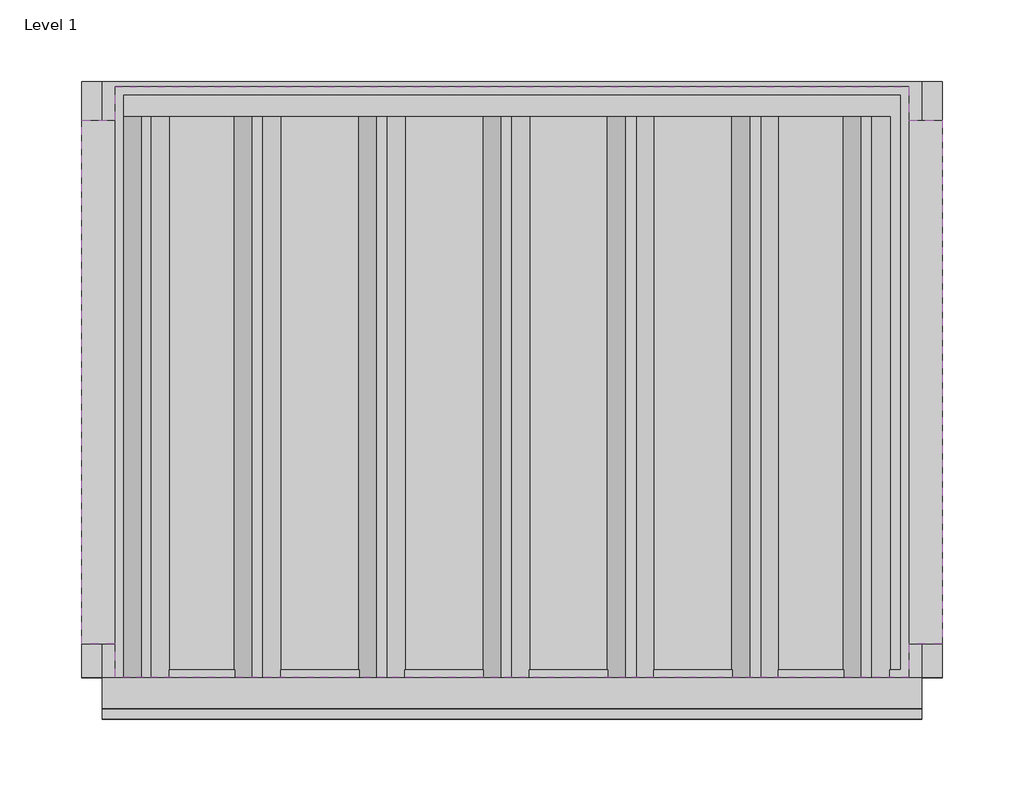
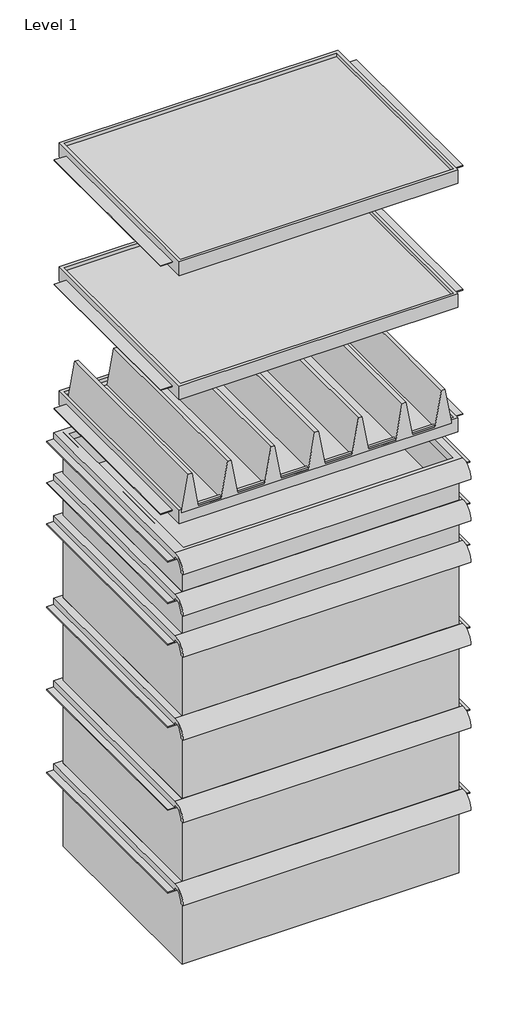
# One storey, incomplete: 10 furniture elements.
"""IFC4 building model written with IfcOpenShell, lengths in millimetres."""

from ifc_helpers import new_model, si_unit, origin, place, context, project, spatial, transform, mapped, element, save
from components import furniture_c520e785, furniture_e646b788, furniture_2bba7109, furniture_85d6e494, furniture_c6bb3dba, furniture_57344b34, furniture_a97c68ee, sr_22_solid_shelf_f207532c, sr_22_solid_shelf_ef78e3b3, sr_22_solid_shelf_ceaeb301

model = new_model("IFC4")

# Units and contexts
model_context = context("Model", 3, world=origin())
ifc_project = project(units=[si_unit("LENGTHUNIT", "METRE", prefix="MILLI")], contexts=[model_context])

# Site, building, storey
site = spatial("IfcSite", under=ifc_project)
building = spatial("IfcBuilding", under=site)
storey = spatial("IfcBuildingStorey", under=building, Name="Level 1", Elevation=0.0)

# Furniture
placement = place(None, origin())
furniture_shape = furniture_c520e785(model_context)
element("IfcFurniture", 1, ObjectType="HermanMiller_CoStruc_CO242_Subdivider Vane : 2 5/8\"Hx13 3/4\"D x 18 1/2\"W", at=placement, inside=storey, context=model_context, shape_type="MappedRepresentation", body=[
    mapped(furniture_shape, transform((372.5766628, -372.3553701, 0.0), x_axis=(1.0, 0.0, 0.0), y_axis=(0.0, 1.0, 0.0), z_axis=(0.0, 0.0, 1.0))),
])
furniture_2_shape = furniture_e646b788(model_context)
element("IfcFurniture", 2, ObjectType="HermanMiller_Carts_CT501_Drawer : 3\"H x 15\"D x 20\"W", at=placement, inside=storey, context=model_context, shape_type="MappedRepresentation", body=[
    mapped(furniture_2_shape, transform((363.1251112, -374.3238701, 0.0), x_axis=(1.0, 0.0, 0.0), y_axis=(0.0, 1.0, 0.0), z_axis=(0.0, 0.0, 1.0))),
])
furniture_3_shape = furniture_2bba7109(model_context)
element("IfcFurniture", 3, ObjectType="HermanMiller_Carts_CT501_Drawer : 3\"H x 15\"D x 20\"W", at=placement, inside=storey, context=model_context, shape_type="MappedRepresentation", body=[
    mapped(furniture_3_shape, transform((363.1251112, -374.3238701, 0.0), x_axis=(1.0, 0.0, 0.0), y_axis=(0.0, 1.0, 0.0), z_axis=(0.0, 0.0, 1.0))),
])
furniture_4_shape = furniture_85d6e494(model_context)
element("IfcFurniture", 4, ObjectType="HermanMiller_Carts_CT501_Drawer : 6\"H x 15\"D x 20\"W", at=placement, inside=storey, context=model_context, shape_type="MappedRepresentation", body=[
    mapped(furniture_4_shape, transform((363.1251112, -374.3238701, 0.0), x_axis=(1.0, 0.0, 0.0), y_axis=(0.0, 1.0, 0.0), z_axis=(0.0, 0.0, 1.0))),
])
furniture_5_shape = furniture_c6bb3dba(model_context)
element("IfcFurniture", 5, ObjectType="HermanMiller_Carts_CT501_Drawer : 6\"H x 15\"D x 20\"W", at=placement, inside=storey, context=model_context, shape_type="MappedRepresentation", body=[
    mapped(furniture_5_shape, transform((363.1251112, -374.3238701, 0.0), x_axis=(1.0, 0.0, 0.0), y_axis=(0.0, 1.0, 0.0), z_axis=(0.0, 0.0, 1.0))),
])
furniture_6_shape = furniture_57344b34(model_context)
element("IfcFurniture", 6, ObjectType="HermanMiller_Carts_CT501_Drawer : 6\"H x 15\"D x 20\"W", at=placement, inside=storey, context=model_context, shape_type="MappedRepresentation", body=[
    mapped(furniture_6_shape, transform((363.1251112, -374.3238701, 0.0), x_axis=(1.0, 0.0, 0.0), y_axis=(0.0, 1.0, 0.0), z_axis=(0.0, 0.0, 1.0))),
])
furniture_7_shape = furniture_a97c68ee(model_context)
element("IfcFurniture", 7, ObjectType="HermanMiller_Carts_CT501_Drawer : 6\"H x 15\"D x 20\"W", at=placement, inside=storey, context=model_context, shape_type="MappedRepresentation", body=[
    mapped(furniture_7_shape, transform((363.1251112, -374.3238701, 0.0), x_axis=(1.0, 0.0, 0.0), y_axis=(0.0, 1.0, 0.0), z_axis=(0.0, 0.0, 1.0))),
])
sr_22_solid_shelf_shape = sr_22_solid_shelf_f207532c(model_context)
element("IfcFurniture", 8, ObjectType="HermanMiller_Carts_CT521_CartShelf : Sr 22 Solid Shelf", at=placement, inside=storey, context=model_context, shape_type="MappedRepresentation", body=[
    mapped(sr_22_solid_shelf_shape, transform((433.1302628, -337.8113701, 0.0), x_axis=(1.0, 0.0, 0.0), y_axis=(0.0, 1.0, 0.0), z_axis=(0.0, 0.0, 1.0))),
])
sr_22_solid_shelf_2_shape = sr_22_solid_shelf_ef78e3b3(model_context)
element("IfcFurniture", 9, ObjectType="HermanMiller_Carts_CT521_CartShelf : Sr 22 Solid Shelf", at=placement, inside=storey, context=model_context, shape_type="MappedRepresentation", body=[
    mapped(sr_22_solid_shelf_2_shape, transform((433.1302628, -337.8113701, 0.0), x_axis=(1.0, 0.0, 0.0), y_axis=(0.0, 1.0, 0.0), z_axis=(0.0, 0.0, 1.0))),
])
sr_22_solid_shelf_3_shape = sr_22_solid_shelf_ceaeb301(model_context)
element("IfcFurniture", 10, ObjectType="HermanMiller_Carts_CT521_CartShelf : Sr 22 Solid Shelf", at=placement, inside=storey, context=model_context, shape_type="MappedRepresentation", body=[
    mapped(sr_22_solid_shelf_3_shape, transform((433.1302628, -337.8113701, 0.0), x_axis=(1.0, 0.0, 0.0), y_axis=(0.0, 1.0, 0.0), z_axis=(0.0, 0.0, 1.0))),
])

save(model, "model.ifc")
